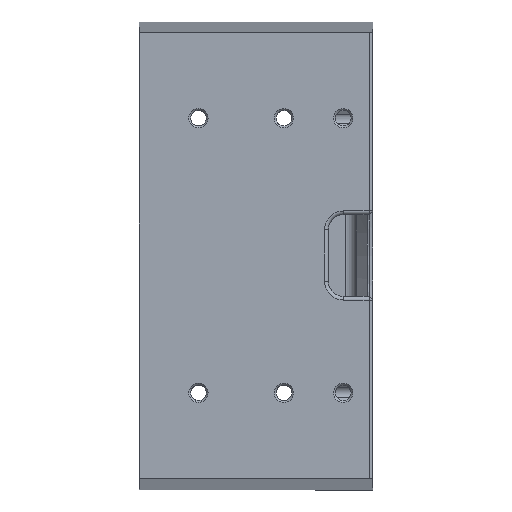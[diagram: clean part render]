
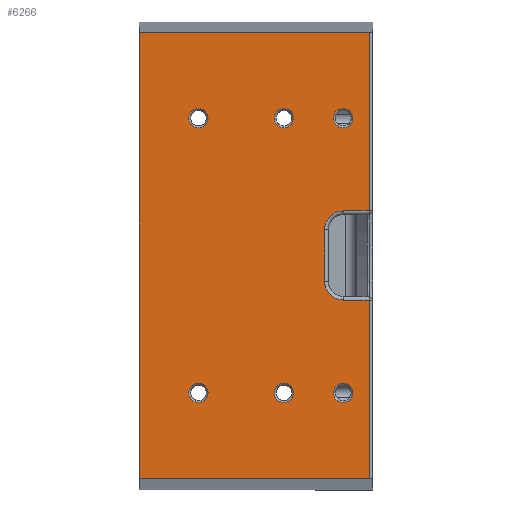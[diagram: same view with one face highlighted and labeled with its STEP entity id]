
A CAD part, top view. The second image highlights one B-rep face of the part: STEP entity #6266.
In plain terms, the highlighted planar face has unit normal (0, 0, 1).
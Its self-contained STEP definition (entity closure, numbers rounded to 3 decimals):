
#603=DIRECTION('',(1.,0.,0.));
#604=VECTOR('',#603,62.);
#605=CARTESIAN_POINT('',(-63.,-60.,0.));
#606=LINE('',#605,#604);
#611=DIRECTION('',(1.,0.,0.));
#612=VECTOR('',#611,62.);
#613=CARTESIAN_POINT('',(-63.,60.,0.));
#614=LINE('',#613,#612);
#615=DIRECTION('',(0.,-1.,0.));
#616=VECTOR('',#615,48.);
#617=CARTESIAN_POINT('',(-1.,60.,0.));
#618=LINE('',#617,#616);
#619=CARTESIAN_POINT('',(-8.,7.,0.));
#620=DIRECTION('',(0.,0.,1.));
#621=DIRECTION('',(0.,1.,0.));
#622=AXIS2_PLACEMENT_3D('',#619,#620,#621);
#624=CARTESIAN_POINT('',(-8.,-7.,0.));
#625=DIRECTION('',(0.,0.,1.));
#626=DIRECTION('',(-1.,0.,0.));
#627=AXIS2_PLACEMENT_3D('',#624,#625,#626);
#629=DIRECTION('',(0.,-1.,0.));
#630=VECTOR('',#629,48.);
#631=CARTESIAN_POINT('',(-1.,-12.,0.));
#632=LINE('',#631,#630);
#633=DIRECTION('',(0.,1.,0.));
#634=VECTOR('',#633,120.);
#635=CARTESIAN_POINT('',(-63.,-60.,0.));
#636=LINE('',#635,#634);
#637=CARTESIAN_POINT('',(-47.,37.,0.));
#638=DIRECTION('',(0.,0.,-1.));
#639=DIRECTION('',(-1.,0.,0.));
#640=AXIS2_PLACEMENT_3D('',#637,#638,#639);
#642=CARTESIAN_POINT('',(-47.,37.,0.));
#643=DIRECTION('',(0.,0.,-1.));
#644=DIRECTION('',(1.,0.,0.));
#645=AXIS2_PLACEMENT_3D('',#642,#643,#644);
#647=CARTESIAN_POINT('',(-24.,37.,0.));
#648=DIRECTION('',(0.,0.,-1.));
#649=DIRECTION('',(-1.,0.,0.));
#650=AXIS2_PLACEMENT_3D('',#647,#648,#649);
#652=CARTESIAN_POINT('',(-24.,37.,0.));
#653=DIRECTION('',(0.,0.,-1.));
#654=DIRECTION('',(1.,0.,0.));
#655=AXIS2_PLACEMENT_3D('',#652,#653,#654);
#657=CARTESIAN_POINT('',(-8.,37.,0.));
#658=DIRECTION('',(0.,0.,-1.));
#659=DIRECTION('',(-1.,0.,0.));
#660=AXIS2_PLACEMENT_3D('',#657,#658,#659);
#662=CARTESIAN_POINT('',(-8.,37.,0.));
#663=DIRECTION('',(0.,0.,-1.));
#664=DIRECTION('',(1.,0.,0.));
#665=AXIS2_PLACEMENT_3D('',#662,#663,#664);
#667=CARTESIAN_POINT('',(-47.,-37.,0.));
#668=DIRECTION('',(0.,0.,-1.));
#669=DIRECTION('',(-1.,0.,0.));
#670=AXIS2_PLACEMENT_3D('',#667,#668,#669);
#672=CARTESIAN_POINT('',(-47.,-37.,0.));
#673=DIRECTION('',(0.,0.,-1.));
#674=DIRECTION('',(1.,0.,0.));
#675=AXIS2_PLACEMENT_3D('',#672,#673,#674);
#677=CARTESIAN_POINT('',(-24.,-37.,0.));
#678=DIRECTION('',(0.,0.,-1.));
#679=DIRECTION('',(-1.,0.,0.));
#680=AXIS2_PLACEMENT_3D('',#677,#678,#679);
#682=CARTESIAN_POINT('',(-24.,-37.,0.));
#683=DIRECTION('',(0.,0.,-1.));
#684=DIRECTION('',(1.,0.,0.));
#685=AXIS2_PLACEMENT_3D('',#682,#683,#684);
#687=CARTESIAN_POINT('',(-8.,-37.,0.));
#688=DIRECTION('',(0.,0.,-1.));
#689=DIRECTION('',(-1.,0.,0.));
#690=AXIS2_PLACEMENT_3D('',#687,#688,#689);
#692=CARTESIAN_POINT('',(-8.,-37.,0.));
#693=DIRECTION('',(0.,0.,-1.));
#694=DIRECTION('',(1.,0.,0.));
#695=AXIS2_PLACEMENT_3D('',#692,#693,#694);
#1449=DIRECTION('',(-1.,0.,0.));
#1450=VECTOR('',#1449,7.);
#1451=CARTESIAN_POINT('',(-1.,-12.,0.));
#1452=LINE('',#1451,#1450);
#1511=DIRECTION('',(1.,0.,0.));
#1512=VECTOR('',#1511,7.);
#1513=CARTESIAN_POINT('',(-8.,12.,0.));
#1514=LINE('',#1513,#1512);
#1560=DIRECTION('',(0.,1.,0.));
#1561=VECTOR('',#1560,14.);
#1562=CARTESIAN_POINT('',(-13.,-7.,0.));
#1563=LINE('',#1562,#1561);
#5009=CARTESIAN_POINT('',(-63.,60.,0.));
#5010=CARTESIAN_POINT('',(-1.,60.,0.));
#5011=VERTEX_POINT('',#5009);
#5012=VERTEX_POINT('',#5010);
#5013=CARTESIAN_POINT('',(-1.,12.,0.));
#5014=VERTEX_POINT('',#5013);
#5015=CARTESIAN_POINT('',(-8.,12.,0.));
#5016=VERTEX_POINT('',#5015);
#5017=CARTESIAN_POINT('',(-13.,7.,0.));
#5018=VERTEX_POINT('',#5017);
#5019=CARTESIAN_POINT('',(-13.,-7.,0.));
#5020=VERTEX_POINT('',#5019);
#5021=CARTESIAN_POINT('',(-8.,-12.,0.));
#5022=VERTEX_POINT('',#5021);
#5023=CARTESIAN_POINT('',(-1.,-12.,0.));
#5024=VERTEX_POINT('',#5023);
#5025=CARTESIAN_POINT('',(-1.,-60.,0.));
#5026=VERTEX_POINT('',#5025);
#5027=CARTESIAN_POINT('',(-63.,-60.,0.));
#5028=VERTEX_POINT('',#5027);
#5566=CARTESIAN_POINT('',(-49.6,37.,0.));
#5567=CARTESIAN_POINT('',(-44.4,37.,0.));
#5568=VERTEX_POINT('',#5566);
#5569=VERTEX_POINT('',#5567);
#5574=CARTESIAN_POINT('',(-26.6,37.,0.));
#5575=CARTESIAN_POINT('',(-21.4,37.,0.));
#5576=VERTEX_POINT('',#5574);
#5577=VERTEX_POINT('',#5575);
#5582=CARTESIAN_POINT('',(-10.6,37.,0.));
#5583=CARTESIAN_POINT('',(-5.4,37.,0.));
#5584=VERTEX_POINT('',#5582);
#5585=VERTEX_POINT('',#5583);
#5590=CARTESIAN_POINT('',(-49.6,-37.,0.));
#5591=CARTESIAN_POINT('',(-44.4,-37.,0.));
#5592=VERTEX_POINT('',#5590);
#5593=VERTEX_POINT('',#5591);
#5598=CARTESIAN_POINT('',(-26.6,-37.,0.));
#5599=CARTESIAN_POINT('',(-21.4,-37.,0.));
#5600=VERTEX_POINT('',#5598);
#5601=VERTEX_POINT('',#5599);
#5606=CARTESIAN_POINT('',(-10.6,-37.,0.));
#5607=CARTESIAN_POINT('',(-5.4,-37.,0.));
#5608=VERTEX_POINT('',#5606);
#5609=VERTEX_POINT('',#5607);
#6205=CARTESIAN_POINT('',(-63.002,0.,0.));
#6206=DIRECTION('',(0.,0.,1.));
#6207=DIRECTION('',(0.,-1.,0.));
#6208=AXIS2_PLACEMENT_3D('',#6205,#6206,#6207);
#6209=PLANE('',#6208);
#6211=ORIENTED_EDGE('',*,*,#6210,.T.);
#6213=ORIENTED_EDGE('',*,*,#6212,.T.);
#6215=ORIENTED_EDGE('',*,*,#6214,.F.);
#6217=ORIENTED_EDGE('',*,*,#6216,.T.);
#6219=ORIENTED_EDGE('',*,*,#6218,.F.);
#6221=ORIENTED_EDGE('',*,*,#6220,.T.);
#6223=ORIENTED_EDGE('',*,*,#6222,.F.);
#6225=ORIENTED_EDGE('',*,*,#6224,.T.);
#6226=ORIENTED_EDGE('',*,*,#6194,.F.);
#6227=ORIENTED_EDGE('',*,*,#5988,.T.);
#6228=EDGE_LOOP('',(#6211,#6213,#6215,#6217,#6219,#6221,#6223,#6225,#6226,
#6227));
#6229=FACE_OUTER_BOUND('',#6228,.F.);
#6231=ORIENTED_EDGE('',*,*,#6230,.F.);
#6233=ORIENTED_EDGE('',*,*,#6232,.F.);
#6234=EDGE_LOOP('',(#6231,#6233));
#6235=FACE_BOUND('',#6234,.F.);
#6237=ORIENTED_EDGE('',*,*,#6236,.F.);
#6239=ORIENTED_EDGE('',*,*,#6238,.F.);
#6240=EDGE_LOOP('',(#6237,#6239));
#6241=FACE_BOUND('',#6240,.F.);
#6243=ORIENTED_EDGE('',*,*,#6242,.F.);
#6245=ORIENTED_EDGE('',*,*,#6244,.F.);
#6246=EDGE_LOOP('',(#6243,#6245));
#6247=FACE_BOUND('',#6246,.F.);
#6249=ORIENTED_EDGE('',*,*,#6248,.F.);
#6251=ORIENTED_EDGE('',*,*,#6250,.F.);
#6252=EDGE_LOOP('',(#6249,#6251));
#6253=FACE_BOUND('',#6252,.F.);
#6255=ORIENTED_EDGE('',*,*,#6254,.F.);
#6257=ORIENTED_EDGE('',*,*,#6256,.F.);
#6258=EDGE_LOOP('',(#6255,#6257));
#6259=FACE_BOUND('',#6258,.F.);
#6261=ORIENTED_EDGE('',*,*,#6260,.F.);
#6263=ORIENTED_EDGE('',*,*,#6262,.F.);
#6264=EDGE_LOOP('',(#6261,#6263));
#6265=FACE_BOUND('',#6264,.F.);
#6266=ADVANCED_FACE('',(#6229,#6235,#6241,#6247,#6253,#6259,#6265),#6209,.T.);
#623=CIRCLE('',#622,5.);
#628=CIRCLE('',#627,5.);
#641=CIRCLE('',#640,2.6);
#646=CIRCLE('',#645,2.6);
#651=CIRCLE('',#650,2.6);
#656=CIRCLE('',#655,2.6);
#661=CIRCLE('',#660,2.6);
#666=CIRCLE('',#665,2.6);
#671=CIRCLE('',#670,2.6);
#676=CIRCLE('',#675,2.6);
#681=CIRCLE('',#680,2.6);
#686=CIRCLE('',#685,2.6);
#691=CIRCLE('',#690,2.6);
#696=CIRCLE('',#695,2.6);
#5988=EDGE_CURVE('',#5028,#5011,#636,.T.);
#6194=EDGE_CURVE('',#5028,#5026,#606,.T.);
#6210=EDGE_CURVE('',#5011,#5012,#614,.T.);
#6212=EDGE_CURVE('',#5012,#5014,#618,.T.);
#6214=EDGE_CURVE('',#5016,#5014,#1514,.T.);
#6216=EDGE_CURVE('',#5016,#5018,#623,.T.);
#6218=EDGE_CURVE('',#5020,#5018,#1563,.T.);
#6220=EDGE_CURVE('',#5020,#5022,#628,.T.);
#6222=EDGE_CURVE('',#5024,#5022,#1452,.T.);
#6224=EDGE_CURVE('',#5024,#5026,#632,.T.);
#6230=EDGE_CURVE('',#5568,#5569,#641,.T.);
#6232=EDGE_CURVE('',#5569,#5568,#646,.T.);
#6236=EDGE_CURVE('',#5576,#5577,#651,.T.);
#6238=EDGE_CURVE('',#5577,#5576,#656,.T.);
#6242=EDGE_CURVE('',#5584,#5585,#661,.T.);
#6244=EDGE_CURVE('',#5585,#5584,#666,.T.);
#6248=EDGE_CURVE('',#5592,#5593,#671,.T.);
#6250=EDGE_CURVE('',#5593,#5592,#676,.T.);
#6254=EDGE_CURVE('',#5600,#5601,#681,.T.);
#6256=EDGE_CURVE('',#5601,#5600,#686,.T.);
#6260=EDGE_CURVE('',#5608,#5609,#691,.T.);
#6262=EDGE_CURVE('',#5609,#5608,#696,.T.);
